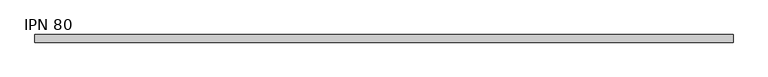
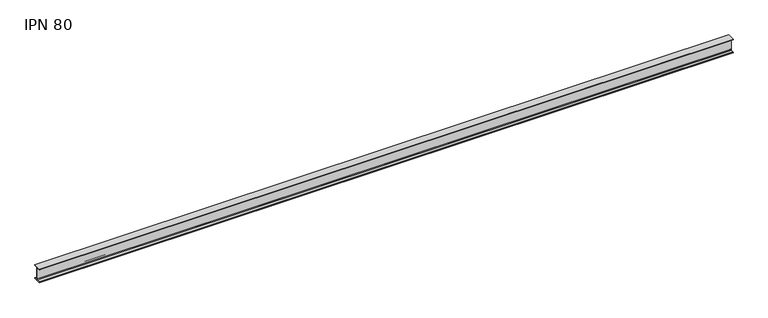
"""IFC4 building model written with IfcOpenShell, lengths in millimetres: beam geometry, IPN - Secciones en I con alas cónicas : IPN 80."""

from ifc_helpers import new_model, si_unit, point, frame, frame_2d, origin, place, context, project, spatial, polyline, circle_curve, trimmed, segment, composite_curve, outline, extrude, source, transform, mapped, element, save


def ipn_80_a594fd54(model_context):
    return source(origin(), model_context, "Body", "SweptSolid", [
        extrude(outline(composite_curve([segment(polyline([(-21.0, 40.0), (21.0, 40.0), (21.0, 37.5704306)]), True, "CONTINUOUS"), segment(trimmed(circle_curve(frame_2d((18.7, 37.5704306)), 2.3), [point((21.0, 37.5704306))], [point((19.01889, 35.2926446))], False, "CARTESIAN"), True, "CONTINUOUS"), segment(polyline([(19.01889, 35.2926446), (5.3092734, 33.3732983)]), True, "CONTINUOUS"), segment(trimmed(circle_curve(frame_2d((5.85, 29.5109655)), 3.9), [point((5.3092734, 33.3732983))], [point((1.95, 29.5109655))], True, "CARTESIAN"), True, "CONTINUOUS"), segment(polyline([(1.95, 29.5109655), (1.95, -29.5109655)]), True, "CONTINUOUS"), segment(trimmed(circle_curve(frame_2d((5.85, -29.5109655)), 3.9), [point((1.95, -29.5109655))], [point((5.3092734, -33.3732983))], True, "CARTESIAN"), True, "CONTINUOUS"), segment(polyline([(5.3092734, -33.3732983), (19.01889, -35.2926446)]), True, "CONTINUOUS"), segment(trimmed(circle_curve(frame_2d((18.7, -37.5704306)), 2.3), [point((19.01889, -35.2926446))], [point((21.0, -37.5704306))], False, "CARTESIAN"), True, "CONTINUOUS"), segment(polyline([(21.0, -37.5704306), (21.0, -40.0), (-21.0, -40.0), (-21.0, -37.5704306)]), True, "CONTINUOUS"), segment(trimmed(circle_curve(frame_2d((-18.7, -37.5704306)), 2.3), [point((-21.0, -37.5704306))], [point((-19.01889, -35.2926446))], False, "CARTESIAN"), True, "CONTINUOUS"), segment(polyline([(-19.01889, -35.2926446), (-5.3092734, -33.3732983)]), True, "CONTINUOUS"), segment(trimmed(circle_curve(frame_2d((-5.85, -29.5109655)), 3.9), [point((-5.3092734, -33.3732983))], [point((-1.95, -29.5109655))], True, "CARTESIAN"), True, "CONTINUOUS"), segment(polyline([(-1.95, -29.5109655), (-1.95, 29.5109655)]), True, "CONTINUOUS"), segment(trimmed(circle_curve(frame_2d((-5.85, 29.5109655)), 3.9), [point((-1.95, 29.5109655))], [point((-5.3092734, 33.3732983))], True, "CARTESIAN"), True, "CONTINUOUS"), segment(polyline([(-5.3092734, 33.3732983), (-19.01889, 35.2926446)]), True, "CONTINUOUS"), segment(trimmed(circle_curve(frame_2d((-18.7, 37.5704306)), 2.3), [point((-19.01889, 35.2926446))], [point((-21.0, 37.5704306))], False, "CARTESIAN"), True, "CONTINUOUS"), segment(polyline([(-21.0, 37.5704306), (-21.0, 40.0)]), True, "CONTINUOUS")], self_intersect=False)), frame((-1938.0, 0.0, 0.0), z_axis=(1.0, 0.0, 0.0), x_axis=(0.0, 1.0, 0.0)), (0.0, 0.0, 1.0), 3853.8),
    ])


if __name__ == "__main__":
    model = new_model("IFC4")
    model_context = context("Model", 3, world=origin())
    ifc_project = project(units=[si_unit("LENGTHUNIT", "METRE", prefix="MILLI")], contexts=[model_context])
    site = spatial("IfcSite", under=ifc_project)
    building = spatial("IfcBuilding", under=site)
    placement = place(None, origin())
    ipn_80_shape = ipn_80_a594fd54(model_context)
    element("IfcBeam", 1, ObjectType="IPN - Secciones en I con alas cónicas : IPN 80", at=placement, inside=building, context=model_context, shape_type="MappedRepresentation", body=[
        mapped(ipn_80_shape, transform((0.0, 0.0, 0.0), x_axis=(1.0, 0.0, 0.0), y_axis=(0.0, 1.0, 0.0), z_axis=(0.0, 0.0, 1.0))),
    ])
    save(model, "model.ifc")
